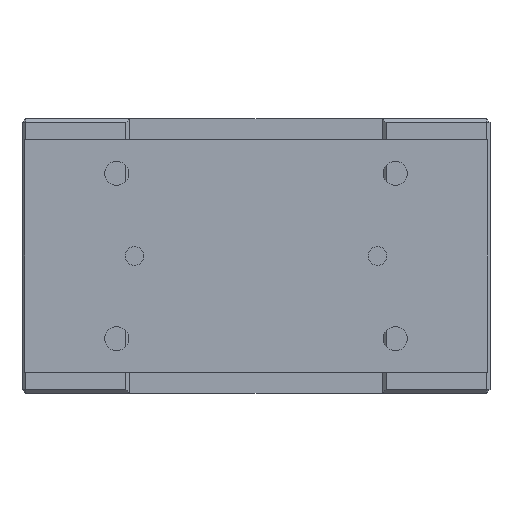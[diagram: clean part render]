
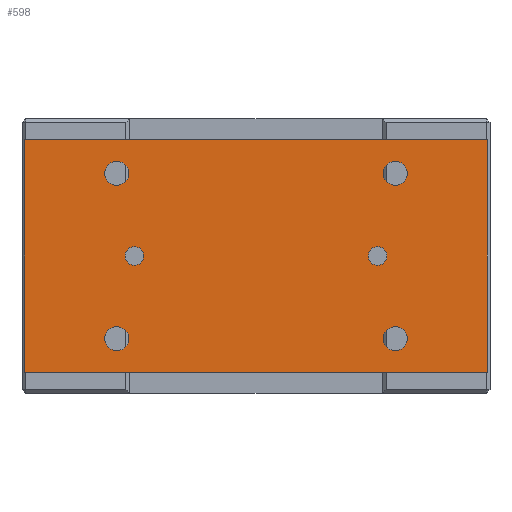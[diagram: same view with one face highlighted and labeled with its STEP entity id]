
A CAD part, left-side view. The second image highlights one B-rep face of the part: STEP entity #598.
In plain terms, the highlighted planar face has unit normal (-1, 0, 0).
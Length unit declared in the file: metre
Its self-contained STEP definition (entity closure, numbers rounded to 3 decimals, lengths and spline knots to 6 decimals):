
#598 = ADVANCED_FACE( '', ( #1367, #1368, #1369, #1370, #1371, #1372, #1373 ), #1374, .T. );
#1367 = FACE_BOUND( '', #2261, .T. );
#1368 = FACE_BOUND( '', #2262, .T. );
#1369 = FACE_BOUND( '', #2263, .T. );
#1370 = FACE_BOUND( '', #2264, .T. );
#1371 = FACE_BOUND( '', #2265, .T. );
#1372 = FACE_BOUND( '', #2266, .T. );
#1373 = FACE_OUTER_BOUND( '', #2267, .T. );
#1374 = PLANE( '', #2268 );
#2261 = EDGE_LOOP( '', ( #3735 ) );
#2262 = EDGE_LOOP( '', ( #3736 ) );
#2263 = EDGE_LOOP( '', ( #3737 ) );
#2264 = EDGE_LOOP( '', ( #3738 ) );
#2265 = EDGE_LOOP( '', ( #3739 ) );
#2266 = EDGE_LOOP( '', ( #3740 ) );
#2267 = EDGE_LOOP( '', ( #3741, #3742, #3743, #3744 ) );
#2268 = AXIS2_PLACEMENT_3D( '', #3745, #3746, #3747 );
#3735 = ORIENTED_EDGE( '', *, *, #4358, .F. );
#3736 = ORIENTED_EDGE( '', *, *, #4781, .T. );
#3737 = ORIENTED_EDGE( '', *, *, #4389, .F. );
#3738 = ORIENTED_EDGE( '', *, *, #4410, .F. );
#3739 = ORIENTED_EDGE( '', *, *, #4334, .F. );
#3740 = ORIENTED_EDGE( '', *, *, #4706, .F. );
#3741 = ORIENTED_EDGE( '', *, *, #4556, .T. );
#3742 = ORIENTED_EDGE( '', *, *, #4818, .T. );
#3743 = ORIENTED_EDGE( '', *, *, #4506, .T. );
#3744 = ORIENTED_EDGE( '', *, *, #4682, .T. );
#3745 = CARTESIAN_POINT( '', ( -0.143, -0.1245, -0.0115 ) );
#3746 = DIRECTION( '', ( -1., 0., 0. ) );
#3747 = DIRECTION( '', ( 0., 0., 1. ) );
#4334 = EDGE_CURVE( '', #4999, #4999, #5000, .T. );
#4358 = EDGE_CURVE( '', #5041, #5041, #5042, .T. );
#4389 = EDGE_CURVE( '', #5093, #5093, #5094, .T. );
#4410 = EDGE_CURVE( '', #5126, #5126, #5127, .T. );
#4506 = EDGE_CURVE( '', #5288, #5286, #5289, .T. );
#4556 = EDGE_CURVE( '', #5363, #5361, #5364, .T. );
#4682 = EDGE_CURVE( '', #5286, #5363, #5551, .T. );
#4706 = EDGE_CURVE( '', #5581, #5581, #5582, .T. );
#4781 = EDGE_CURVE( '', #5684, #5684, #5685, .T. );
#4818 = EDGE_CURVE( '', #5361, #5288, #5735, .T. );
#4999 = VERTEX_POINT( '', #5978 );
#5000 = CIRCLE( '', #5979, 0.0065 );
#5041 = VERTEX_POINT( '', #6030 );
#5042 = CIRCLE( '', #6031, 0.005 );
#5093 = VERTEX_POINT( '', #6130 );
#5094 = CIRCLE( '', #6131, 0.0065 );
#5126 = VERTEX_POINT( '', #6175 );
#5127 = CIRCLE( '', #6176, 0.0065 );
#5286 = VERTEX_POINT( '', #6407 );
#5288 = VERTEX_POINT( '', #6410 );
#5289 = LINE( '', #6411, #6412 );
#5361 = VERTEX_POINT( '', #6536 );
#5363 = VERTEX_POINT( '', #6539 );
#5364 = LINE( '', #6540, #6541 );
#5551 = LINE( '', #6849, #6850 );
#5581 = VERTEX_POINT( '', #6920 );
#5582 = CIRCLE( '', #6921, 0.0065 );
#5684 = VERTEX_POINT( '', #7058 );
#5685 = CIRCLE( '', #7059, 0.005 );
#5735 = LINE( '', #7120, #7121 );
#5978 = CARTESIAN_POINT( '', ( -0.143, -0.075, -0.023 ) );
#5979 = AXIS2_PLACEMENT_3D( '', #7353, #7354, #7355 );
#6030 = CARTESIAN_POINT( '', ( -0.143, -0.0705, -0.074 ) );
#6031 = AXIS2_PLACEMENT_3D( '', #7387, #7388, #7389 );
#6130 = CARTESIAN_POINT( '', ( -0.143, -0.075, -0.112 ) );
#6131 = AXIS2_PLACEMENT_3D( '', #7420, #7421, #7422 );
#6175 = CARTESIAN_POINT( '', ( -0.143, 0.075, -0.112 ) );
#6176 = AXIS2_PLACEMENT_3D( '', #7441, #7442, #7443 );
#6407 = CARTESIAN_POINT( '', ( -0.143, 0.1245, -0.1365 ) );
#6410 = CARTESIAN_POINT( '', ( -0.143, 0.1245, -0.0115 ) );
#6411 = CARTESIAN_POINT( '', ( -0.143, 0.1245, -0.0115 ) );
#6412 = VECTOR( '', #7571, 1. );
#6536 = CARTESIAN_POINT( '', ( -0.143, -0.1245, -0.0115 ) );
#6539 = CARTESIAN_POINT( '', ( -0.143, -0.1245, -0.1365 ) );
#6540 = CARTESIAN_POINT( '', ( -0.143, -0.1245, -0.1365 ) );
#6541 = VECTOR( '', #7625, 1. );
#6849 = CARTESIAN_POINT( '', ( -0.143, 0.1245, -0.1365 ) );
#6850 = VECTOR( '', #7759, 1. );
#6920 = CARTESIAN_POINT( '', ( -0.143, 0.075, -0.023 ) );
#6921 = AXIS2_PLACEMENT_3D( '', #7779, #7780, #7781 );
#7058 = CARTESIAN_POINT( '', ( -0.143, 0.0705, -0.074 ) );
#7059 = AXIS2_PLACEMENT_3D( '', #7856, #7857, #7858 );
#7120 = CARTESIAN_POINT( '', ( -0.143, -0.1245, -0.0115 ) );
#7121 = VECTOR( '', #7900, 1. );
#7353 = CARTESIAN_POINT( '', ( -0.143, -0.075, -0.0295 ) );
#7354 = DIRECTION( '', ( -1., 0., 0. ) );
#7355 = DIRECTION( '', ( 0., 0., 1. ) );
#7387 = CARTESIAN_POINT( '', ( -0.143, -0.0655, -0.074 ) );
#7388 = DIRECTION( '', ( -1., 0., 0. ) );
#7389 = DIRECTION( '', ( 0., -1., 0. ) );
#7420 = CARTESIAN_POINT( '', ( -0.143, -0.075, -0.1185 ) );
#7421 = DIRECTION( '', ( -1., 0., 0. ) );
#7422 = DIRECTION( '', ( 0., 0., 1. ) );
#7441 = CARTESIAN_POINT( '', ( -0.143, 0.075, -0.1185 ) );
#7442 = DIRECTION( '', ( -1., 0., 0. ) );
#7443 = DIRECTION( '', ( 0., 0., 1. ) );
#7571 = DIRECTION( '', ( 0., 0., -1. ) );
#7625 = DIRECTION( '', ( 0., 0., 1. ) );
#7759 = DIRECTION( '', ( 0., -1., 0. ) );
#7779 = CARTESIAN_POINT( '', ( -0.143, 0.075, -0.0295 ) );
#7780 = DIRECTION( '', ( -1., 0., 0. ) );
#7781 = DIRECTION( '', ( 0., 0., 1. ) );
#7856 = CARTESIAN_POINT( '', ( -0.143, 0.0655, -0.074 ) );
#7857 = DIRECTION( '', ( 1., 0., 0. ) );
#7858 = DIRECTION( '', ( 0., 1., 0. ) );
#7900 = DIRECTION( '', ( 0., 1., 0. ) );
